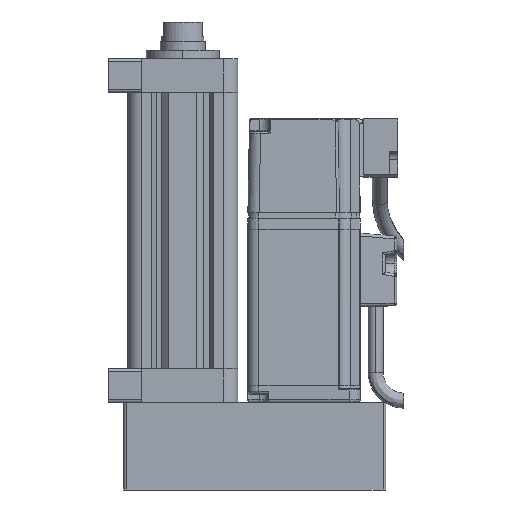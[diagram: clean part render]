
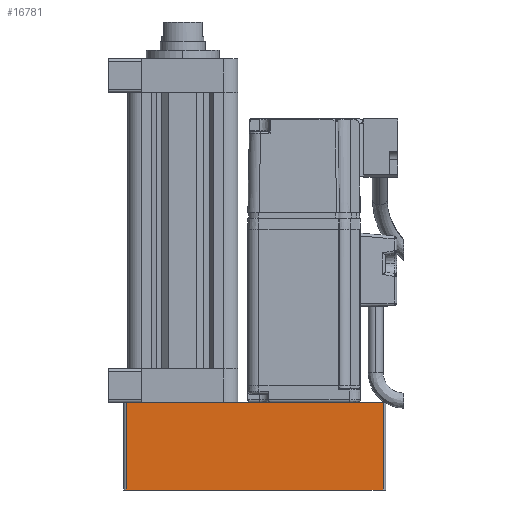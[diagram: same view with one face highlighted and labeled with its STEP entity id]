
A CAD part, left-side view. The second image highlights one B-rep face of the part: STEP entity #16781.
In plain terms, the highlighted planar face has unit normal (-1, 0, 0) as drawn and (0, 1, 0) by its records, which use the part's own axes.
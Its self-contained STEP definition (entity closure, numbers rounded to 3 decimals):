
#594 = VECTOR ( 'NONE', #5305, 1000. ) ;
#843 = VERTEX_POINT ( 'NONE', #19621 ) ;
#1039 = LINE ( 'NONE', #18331, #14936 ) ;
#1912 = ORIENTED_EDGE ( 'NONE', *, *, #2193, .T. ) ;
#2193 = EDGE_CURVE ( 'NONE', #843, #7175, #8185, .T. ) ;
#2350 = DIRECTION ( 'NONE',  ( 0., 0., -1. ) ) ;
#3216 = CARTESIAN_POINT ( 'NONE',  ( -46.5, 24., 31. ) ) ;
#5305 = DIRECTION ( 'NONE',  ( 0., 0., 1. ) ) ;
#6499 = DIRECTION ( 'NONE',  ( -1., 0., 0. ) ) ;
#7175 = VERTEX_POINT ( 'NONE', #9851 ) ;
#7704 = EDGE_LOOP ( 'NONE', ( #9554, #1912, #13465, #9518 ) ) ;
#8185 = LINE ( 'NONE', #18046, #17119 ) ;
#8227 = CARTESIAN_POINT ( 'NONE',  ( -46.5, 24., 31. ) ) ;
#8426 = EDGE_CURVE ( 'NONE', #20169, #10580, #8926, .T. ) ;
#8711 = DIRECTION ( 'NONE',  ( 0., 0., -1. ) ) ;
#8926 = LINE ( 'NONE', #21035, #594 ) ;
#9100 = CARTESIAN_POINT ( 'NONE',  ( -45.5, 24., 0. ) ) ;
#9518 = ORIENTED_EDGE ( 'NONE', *, *, #8426, .T. ) ;
#9554 = ORIENTED_EDGE ( 'NONE', *, *, #9981, .F. ) ;
#9851 = CARTESIAN_POINT ( 'NONE',  ( 45.5, 24., 0. ) ) ;
#9981 = EDGE_CURVE ( 'NONE', #843, #10580, #19392, .T. ) ;
#10437 = CARTESIAN_POINT ( 'NONE',  ( -45.5, 24., 31. ) ) ;
#10580 = VERTEX_POINT ( 'NONE', #10437 ) ;
#13465 = ORIENTED_EDGE ( 'NONE', *, *, #13588, .T. ) ;
#13544 = VECTOR ( 'NONE', #14865, 1000. ) ;
#13588 = EDGE_CURVE ( 'NONE', #7175, #20169, #1039, .T. ) ;
#14865 = DIRECTION ( 'NONE',  ( -1., 0., 0. ) ) ;
#14936 = VECTOR ( 'NONE', #6499, 1000. ) ;
#16332 = PLANE ( 'NONE',  #17846 ) ;
#16425 = DIRECTION ( 'NONE',  ( 0., -1., 0. ) ) ;
#16781 = ADVANCED_FACE ( 'NONE', ( #22246 ), #16332, .F. ) ;
#17119 = VECTOR ( 'NONE', #8711, 1000. ) ;
#17846 = AXIS2_PLACEMENT_3D ( 'NONE', #8227, #16425, #2350 ) ;
#18046 = CARTESIAN_POINT ( 'NONE',  ( 45.5, 24., 31. ) ) ;
#18331 = CARTESIAN_POINT ( 'NONE',  ( -46.5, 24., 0. ) ) ;
#19392 = LINE ( 'NONE', #3216, #13544 ) ;
#19621 = CARTESIAN_POINT ( 'NONE',  ( 45.5, 24., 31. ) ) ;
#20169 = VERTEX_POINT ( 'NONE', #9100 ) ;
#21035 = CARTESIAN_POINT ( 'NONE',  ( -45.5, 24., 31. ) ) ;
#22246 = FACE_OUTER_BOUND ( 'NONE', #7704, .T. ) ;
